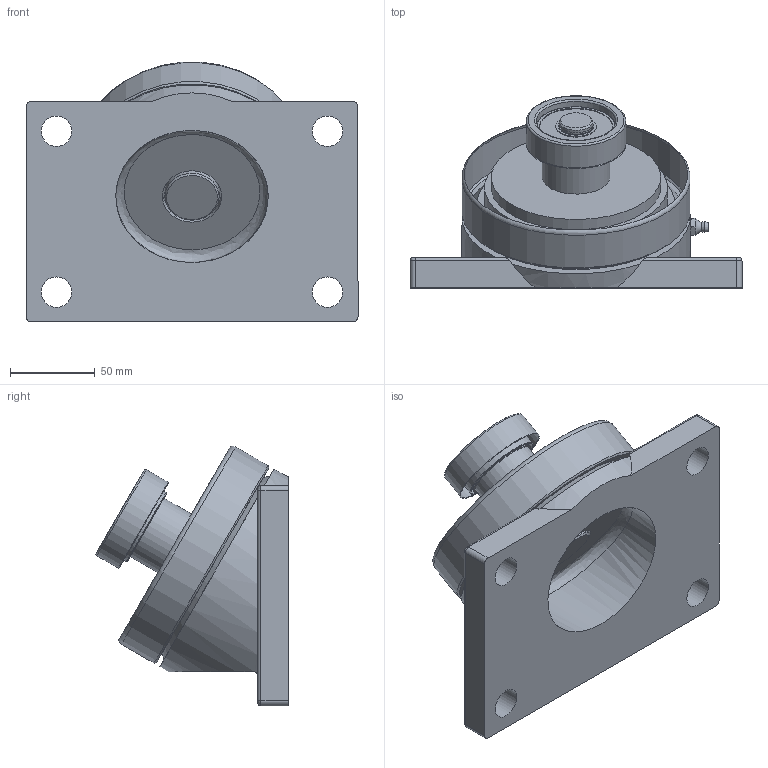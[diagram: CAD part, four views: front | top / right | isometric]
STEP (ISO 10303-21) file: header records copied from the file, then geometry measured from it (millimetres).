
FILE_DESCRIPTION(/* description */ (''),/* implementation_level */ '2;1');
FILE_NAME(/* name */ 'Z:\35-j-ito\製品モデル\SW-K\SW-100-K\HP用\SW-100-K.stp',/* time_stamp */ '2022-04-05T09:15:39+09:00',/* author */ ('j-ito'),/* organization */ (''),/* preprocessor_version */ 'ST-DEVELOPER v18.1',/* originating_system */ 'Autodesk Inventor 2022',/* authorisation */ '');
FILE_SCHEMA (('AUTOMOTIVE_DESIGN { 1 0 10303 214 3 1 1 }'));
Length unit declared in the file: millimetre
Products named in the file (3): SW-100-K; SW-100-K_1; グリスニップル
Assembly tree (2 placements, depth 2):
  SW-100-K
    SW-100-K_1
    グリスニップル
Bounding box: 196 x 113.45 x 153.27 mm (x, y, z)
Volume: 1003596.4 mm3; surface area: 154189.8 mm2
Topology: 2 solids, 3 shells, 126 faces, 270 edges, 172 vertices
Faces by surface type: cylinder 43, plane 41, cone 25, torus 11, bspline 6
Full cylindrical faces by diameter (mm): 1.5 x1, 3.5 x1, 8 x1, 18 x4, 19 x1, 20 x3, 24 x2, 26 x2, 32 x1, 35 x1, 40 x1, 43 x2, 47 x1, 47.1 x1, 50 x1, 58.79 x1, 65 x1, 100.1 x1, 108 x1, 109 x1, 135 x1
Entity records: 4014 total; most frequent: CARTESIAN_POINT 986, DIRECTION 644, ORIENTED_EDGE 536, AXIS2_PLACEMENT_3D 282, EDGE_CURVE 268, VERTEX_POINT 172, EDGE_LOOP 162, CIRCLE 146
